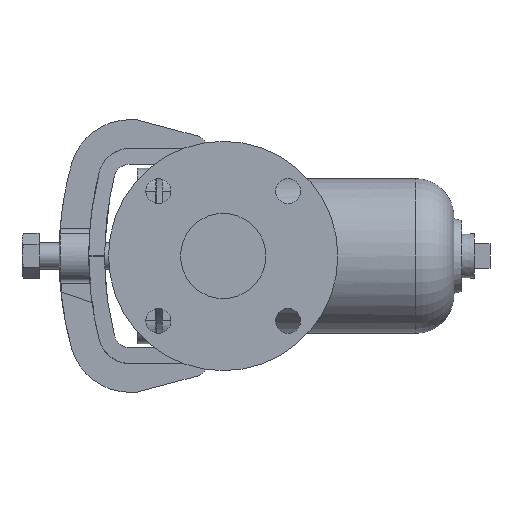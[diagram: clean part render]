
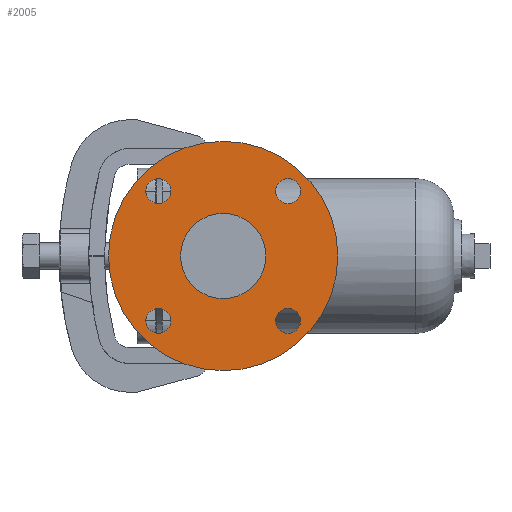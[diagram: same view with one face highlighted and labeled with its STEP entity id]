
A CAD part, left-side view. The second image highlights one B-rep face of the part: STEP entity #2005.
In plain terms, the highlighted planar face has unit normal (-1, 0, 0).
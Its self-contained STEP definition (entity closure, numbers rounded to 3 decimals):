
#57 = EDGE_CURVE ( 'NONE', #6345, #4159, #1110, .T. ) ;
#112 = CARTESIAN_POINT ( 'NONE',  ( -115., -49.497, -49.497 ) ) ;
#137 = ORIENTED_EDGE ( 'NONE', *, *, #3862, .T. ) ;
#238 = EDGE_LOOP ( 'NONE', ( #1184, #2399 ) ) ;
#276 = CARTESIAN_POINT ( 'NONE',  ( -115., 0., 32.5 ) ) ;
#309 = DIRECTION ( 'NONE',  ( -1., 0., 0. ) ) ;
#320 = CARTESIAN_POINT ( 'NONE',  ( -115., 49.497, -49.497 ) ) ;
#427 = ORIENTED_EDGE ( 'NONE', *, *, #7663, .F. ) ;
#438 = FACE_BOUND ( 'NONE', #1957, .T. ) ;
#485 = AXIS2_PLACEMENT_3D ( 'NONE', #3043, #8320, #4353 ) ;
#528 = CARTESIAN_POINT ( 'NONE',  ( -115., 0., 0. ) ) ;
#630 = EDGE_CURVE ( 'NONE', #4313, #6001, #8126, .T. ) ;
#656 = AXIS2_PLACEMENT_3D ( 'NONE', #2625, #3153, #5153 ) ;
#672 = EDGE_CURVE ( 'NONE', #5915, #5368, #8531, .T. ) ;
#705 = DIRECTION ( 'NONE',  ( 0., 0., -1. ) ) ;
#739 = AXIS2_PLACEMENT_3D ( 'NONE', #320, #6886, #8354 ) ;
#860 = VERTEX_POINT ( 'NONE', #4433 ) ;
#885 = CARTESIAN_POINT ( 'NONE',  ( -115., -49.497, -39.997 ) ) ;
#896 = CIRCLE ( 'NONE', #5444, 32.5 ) ;
#997 = ORIENTED_EDGE ( 'NONE', *, *, #1324, .T. ) ;
#1110 = CIRCLE ( 'NONE', #656, 9.5 ) ;
#1184 = ORIENTED_EDGE ( 'NONE', *, *, #7944, .F. ) ;
#1202 = DIRECTION ( 'NONE',  ( -1., 0., 0. ) ) ;
#1300 = CIRCLE ( 'NONE', #485, 87.5 ) ;
#1324 = EDGE_CURVE ( 'NONE', #860, #1848, #5112, .T. ) ;
#1465 = CARTESIAN_POINT ( 'NONE',  ( -115., 0., 0. ) ) ;
#1599 = DIRECTION ( 'NONE',  ( -1., 0., 0. ) ) ;
#1694 = AXIS2_PLACEMENT_3D ( 'NONE', #8198, #4358, #6156 ) ;
#1734 = FACE_BOUND ( 'NONE', #1953, .T. ) ;
#1749 = DIRECTION ( 'NONE',  ( 0., 0., 1. ) ) ;
#1774 = FACE_OUTER_BOUND ( 'NONE', #2144, .T. ) ;
#1848 = VERTEX_POINT ( 'NONE', #3321 ) ;
#1953 = EDGE_LOOP ( 'NONE', ( #7580, #2802 ) ) ;
#1957 = EDGE_LOOP ( 'NONE', ( #6036, #8002 ) ) ;
#2005 = ADVANCED_FACE ( 'NONE', ( #4282, #1734, #3766, #2938, #438, #1774 ), #2335, .F. ) ;
#2028 = VERTEX_POINT ( 'NONE', #4327 ) ;
#2080 = DIRECTION ( 'NONE',  ( 0., 0., 1. ) ) ;
#2144 = EDGE_LOOP ( 'NONE', ( #997, #137 ) ) ;
#2167 = DIRECTION ( 'NONE',  ( 0., 0., 1. ) ) ;
#2211 = EDGE_CURVE ( 'NONE', #6001, #4313, #7309, .T. ) ;
#2261 = ORIENTED_EDGE ( 'NONE', *, *, #2211, .F. ) ;
#2335 = PLANE ( 'NONE',  #3585 ) ;
#2349 = AXIS2_PLACEMENT_3D ( 'NONE', #4533, #1202, #6463 ) ;
#2399 = ORIENTED_EDGE ( 'NONE', *, *, #672, .F. ) ;
#2596 = AXIS2_PLACEMENT_3D ( 'NONE', #7674, #4305, #5600 ) ;
#2625 = CARTESIAN_POINT ( 'NONE',  ( -115., -49.497, 49.497 ) ) ;
#2802 = ORIENTED_EDGE ( 'NONE', *, *, #5809, .F. ) ;
#2938 = FACE_BOUND ( 'NONE', #238, .T. ) ;
#2947 = CIRCLE ( 'NONE', #739, 9.5 ) ;
#3043 = CARTESIAN_POINT ( 'NONE',  ( -115., 0., 0. ) ) ;
#3150 = AXIS2_PLACEMENT_3D ( 'NONE', #5469, #4690, #7323 ) ;
#3153 = DIRECTION ( 'NONE',  ( -1., 0., 0. ) ) ;
#3163 = DIRECTION ( 'NONE',  ( -1., 0., 0. ) ) ;
#3321 = CARTESIAN_POINT ( 'NONE',  ( -115., 0., -87.5 ) ) ;
#3454 = EDGE_CURVE ( 'NONE', #6527, #4817, #896, .T. ) ;
#3502 = CARTESIAN_POINT ( 'NONE',  ( -115., 0., 0. ) ) ;
#3585 = AXIS2_PLACEMENT_3D ( 'NONE', #4373, #4414, #7607 ) ;
#3661 = CARTESIAN_POINT ( 'NONE',  ( -115., 49.497, 58.997 ) ) ;
#3766 = FACE_BOUND ( 'NONE', #4243, .T. ) ;
#3862 = EDGE_CURVE ( 'NONE', #1848, #860, #1300, .T. ) ;
#4056 = CIRCLE ( 'NONE', #5029, 9.5 ) ;
#4100 = CARTESIAN_POINT ( 'NONE',  ( -115., 0., -32.5 ) ) ;
#4127 = CARTESIAN_POINT ( 'NONE',  ( -115., 49.497, -58.997 ) ) ;
#4159 = VERTEX_POINT ( 'NONE', #6065 ) ;
#4243 = EDGE_LOOP ( 'NONE', ( #8155, #2261 ) ) ;
#4282 = FACE_BOUND ( 'NONE', #8199, .T. ) ;
#4305 = DIRECTION ( 'NONE',  ( -1., 0., 0. ) ) ;
#4313 = VERTEX_POINT ( 'NONE', #3661 ) ;
#4320 = CIRCLE ( 'NONE', #1694, 9.5 ) ;
#4327 = CARTESIAN_POINT ( 'NONE',  ( -115., -49.497, -58.997 ) ) ;
#4353 = DIRECTION ( 'NONE',  ( 0., 0., 1. ) ) ;
#4358 = DIRECTION ( 'NONE',  ( -1., 0., 0. ) ) ;
#4373 = CARTESIAN_POINT ( 'NONE',  ( -115., 0., 0. ) ) ;
#4414 = DIRECTION ( 'NONE',  ( 1., 0., 0. ) ) ;
#4433 = CARTESIAN_POINT ( 'NONE',  ( -115., 0., 87.5 ) ) ;
#4482 = ORIENTED_EDGE ( 'NONE', *, *, #6717, .F. ) ;
#4533 = CARTESIAN_POINT ( 'NONE',  ( -115., 49.497, 49.497 ) ) ;
#4582 = CIRCLE ( 'NONE', #4719, 9.5 ) ;
#4690 = DIRECTION ( 'NONE',  ( -1., 0., 0. ) ) ;
#4719 = AXIS2_PLACEMENT_3D ( 'NONE', #7313, #7923, #705 ) ;
#4735 = VERTEX_POINT ( 'NONE', #885 ) ;
#4817 = VERTEX_POINT ( 'NONE', #276 ) ;
#5029 = AXIS2_PLACEMENT_3D ( 'NONE', #112, #7372, #6855 ) ;
#5112 = CIRCLE ( 'NONE', #6467, 87.5 ) ;
#5153 = DIRECTION ( 'NONE',  ( 0., 0., -1. ) ) ;
#5198 = EDGE_CURVE ( 'NONE', #4817, #6527, #7061, .T. ) ;
#5275 = CARTESIAN_POINT ( 'NONE',  ( -115., 49.497, -39.997 ) ) ;
#5368 = VERTEX_POINT ( 'NONE', #5275 ) ;
#5444 = AXIS2_PLACEMENT_3D ( 'NONE', #1465, #309, #2080 ) ;
#5469 = CARTESIAN_POINT ( 'NONE',  ( -115., 49.497, 49.497 ) ) ;
#5600 = DIRECTION ( 'NONE',  ( 0., 0., 1. ) ) ;
#5809 = EDGE_CURVE ( 'NONE', #4159, #6345, #4582, .T. ) ;
#5915 = VERTEX_POINT ( 'NONE', #4127 ) ;
#6001 = VERTEX_POINT ( 'NONE', #6948 ) ;
#6036 = ORIENTED_EDGE ( 'NONE', *, *, #5198, .F. ) ;
#6065 = CARTESIAN_POINT ( 'NONE',  ( -115., -49.497, 39.997 ) ) ;
#6156 = DIRECTION ( 'NONE',  ( 0., 1., 0. ) ) ;
#6345 = VERTEX_POINT ( 'NONE', #8057 ) ;
#6463 = DIRECTION ( 'NONE',  ( 0., -1., 0. ) ) ;
#6467 = AXIS2_PLACEMENT_3D ( 'NONE', #528, #3163, #1749 ) ;
#6527 = VERTEX_POINT ( 'NONE', #4100 ) ;
#6717 = EDGE_CURVE ( 'NONE', #2028, #4735, #4320, .T. ) ;
#6855 = DIRECTION ( 'NONE',  ( 0., 1., 0. ) ) ;
#6886 = DIRECTION ( 'NONE',  ( -1., 0., 0. ) ) ;
#6948 = CARTESIAN_POINT ( 'NONE',  ( -115., 49.497, 39.997 ) ) ;
#7061 = CIRCLE ( 'NONE', #7886, 32.5 ) ;
#7309 = CIRCLE ( 'NONE', #2349, 9.5 ) ;
#7313 = CARTESIAN_POINT ( 'NONE',  ( -115., -49.497, 49.497 ) ) ;
#7323 = DIRECTION ( 'NONE',  ( 0., -1., 0. ) ) ;
#7372 = DIRECTION ( 'NONE',  ( -1., 0., 0. ) ) ;
#7580 = ORIENTED_EDGE ( 'NONE', *, *, #57, .F. ) ;
#7607 = DIRECTION ( 'NONE',  ( 0., 0., -1. ) ) ;
#7663 = EDGE_CURVE ( 'NONE', #4735, #2028, #4056, .T. ) ;
#7674 = CARTESIAN_POINT ( 'NONE',  ( -115., 49.497, -49.497 ) ) ;
#7886 = AXIS2_PLACEMENT_3D ( 'NONE', #3502, #1599, #2167 ) ;
#7923 = DIRECTION ( 'NONE',  ( -1., 0., 0. ) ) ;
#7944 = EDGE_CURVE ( 'NONE', #5368, #5915, #2947, .T. ) ;
#8002 = ORIENTED_EDGE ( 'NONE', *, *, #3454, .F. ) ;
#8057 = CARTESIAN_POINT ( 'NONE',  ( -115., -49.497, 58.997 ) ) ;
#8126 = CIRCLE ( 'NONE', #3150, 9.5 ) ;
#8155 = ORIENTED_EDGE ( 'NONE', *, *, #630, .F. ) ;
#8198 = CARTESIAN_POINT ( 'NONE',  ( -115., -49.497, -49.497 ) ) ;
#8199 = EDGE_LOOP ( 'NONE', ( #427, #4482 ) ) ;
#8320 = DIRECTION ( 'NONE',  ( -1., 0., 0. ) ) ;
#8354 = DIRECTION ( 'NONE',  ( 0., 0., 1. ) ) ;
#8531 = CIRCLE ( 'NONE', #2596, 9.5 ) ;
